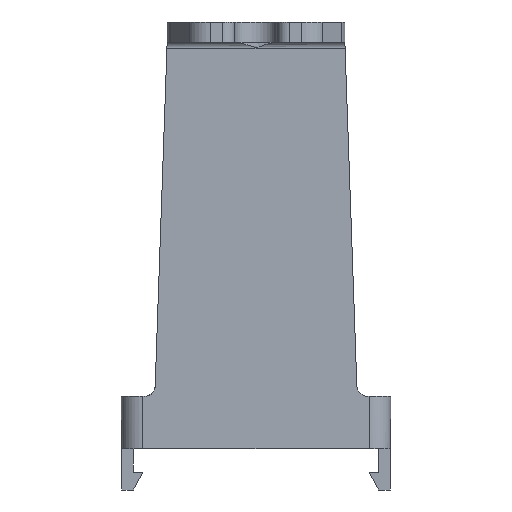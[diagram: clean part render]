
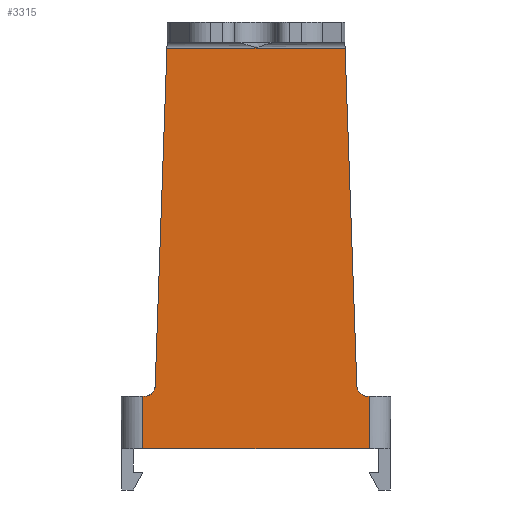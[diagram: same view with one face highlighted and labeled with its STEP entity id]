
A CAD part, front view. The second image highlights one B-rep face of the part: STEP entity #3315.
In plain terms, the highlighted planar face has unit normal (0, -1, -0.006).
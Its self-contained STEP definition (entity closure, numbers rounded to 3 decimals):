
#49=ELLIPSE('',#3580,0.9,0.9);
#50=ELLIPSE('',#3582,0.9,0.9);
#552=ORIENTED_EDGE('',*,*,#1411,.T.);
#553=ORIENTED_EDGE('',*,*,#1425,.T.);
#554=ORIENTED_EDGE('',*,*,#1491,.T.);
#555=ORIENTED_EDGE('',*,*,#1489,.T.);
#556=ORIENTED_EDGE('',*,*,#1492,.T.);
#557=ORIENTED_EDGE('',*,*,#1324,.T.);
#558=ORIENTED_EDGE('',*,*,#1493,.T.);
#559=ORIENTED_EDGE('',*,*,#1494,.F.);
#560=ORIENTED_EDGE('',*,*,#1495,.F.);
#561=ORIENTED_EDGE('',*,*,#1405,.F.);
#1324=EDGE_CURVE('',#1820,#1819,#2116,.T.);
#1405=EDGE_CURVE('',#1880,#1881,#2180,.F.);
#1411=EDGE_CURVE('',#1880,#1885,#2184,.T.);
#1425=EDGE_CURVE('',#1885,#1894,#2195,.F.);
#1489=EDGE_CURVE('',#1946,#1945,#49,.F.);
#1491=EDGE_CURVE('',#1894,#1946,#2231,.T.);
#1492=EDGE_CURVE('',#1945,#1820,#2232,.T.);
#1493=EDGE_CURVE('',#1819,#1947,#2233,.T.);
#1494=EDGE_CURVE('',#1948,#1947,#50,.T.);
#1495=EDGE_CURVE('',#1881,#1948,#2234,.F.);
#1819=VERTEX_POINT('',#5049);
#1820=VERTEX_POINT('',#5051);
#1880=VERTEX_POINT('',#5246);
#1881=VERTEX_POINT('',#5248);
#1885=VERTEX_POINT('',#5258);
#1894=VERTEX_POINT('',#5283);
#1945=VERTEX_POINT('',#5481);
#1946=VERTEX_POINT('',#5483);
#1947=VERTEX_POINT('',#5489);
#1948=VERTEX_POINT('',#5491);
#2116=LINE('',#5050,#2522);
#2180=LINE('',#5247,#2586);
#2184=LINE('',#5259,#2590);
#2195=LINE('',#5284,#2601);
#2231=LINE('',#5486,#2637);
#2232=LINE('',#5487,#2638);
#2233=LINE('',#5488,#2639);
#2234=LINE('',#5492,#2640);
#2522=VECTOR('',#3934,1000.);
#2586=VECTOR('',#4068,1000.);
#2590=VECTOR('',#4078,1000.);
#2601=VECTOR('',#4099,1000.);
#2637=VECTOR('',#4217,1000.);
#2638=VECTOR('',#4218,1000.);
#2639=VECTOR('',#4219,1000.);
#2640=VECTOR('',#4222,1000.);
#2843=EDGE_LOOP('',(#552,#553,#554,#555,#556,#557,#558,#559,#560,#561));
#3018=FACE_BOUND('',#2843,.T.);
#3172=PLANE('',#3581);
#3315=ADVANCED_FACE('',(#3018),#3172,.T.);
#3580=AXIS2_PLACEMENT_3D('',#5482,#4212,#4213);
#3581=AXIS2_PLACEMENT_3D('',#5485,#4215,#4216);
#3582=AXIS2_PLACEMENT_3D('',#5490,#4220,#4221);
#3934=DIRECTION('',(-1.,0.,0.));
#4068=DIRECTION('',(0.006,0.006,-1.));
#4078=DIRECTION('',(1.,0.,0.));
#4099=DIRECTION('',(-0.006,0.006,-1.));
#4212=DIRECTION('',(0.,-1.,-0.006));
#4213=DIRECTION('',(0.,-0.006,1.));
#4215=DIRECTION('',(0.,-1.,-0.006));
#4216=DIRECTION('',(0.,0.006,-1.));
#4217=DIRECTION('',(-1.,0.,0.));
#4218=DIRECTION('',(-0.035,-0.006,0.999));
#4219=DIRECTION('',(-0.035,0.006,-0.999));
#4220=DIRECTION('',(0.,-1.,-0.006));
#4221=DIRECTION('',(0.,0.006,-1.));
#4222=DIRECTION('',(-1.,0.,0.));
#5049=CARTESIAN_POINT('',(-7.517,-15.047,33.803));
#5050=CARTESIAN_POINT('',(-11.35,-15.047,33.803));
#5051=CARTESIAN_POINT('',(7.517,-15.047,33.803));
#5246=CARTESIAN_POINT('',(-9.55,-14.85,0.));
#5247=CARTESIAN_POINT('',(-9.55,-14.85,-0.01));
#5248=CARTESIAN_POINT('',(-9.576,-14.876,4.4));
#5258=CARTESIAN_POINT('',(9.55,-14.85,0.));
#5259=CARTESIAN_POINT('',(-9.55,-14.85,0.));
#5283=CARTESIAN_POINT('',(9.576,-14.876,4.4));
#5284=CARTESIAN_POINT('',(9.755,-15.055,35.299));
#5481=CARTESIAN_POINT('',(8.514,-14.881,5.269));
#5482=CARTESIAN_POINT('',(9.413,-14.881,5.3));
#5483=CARTESIAN_POINT('',(9.413,-14.876,4.4));
#5485=CARTESIAN_POINT('',(-11.35,-15.055,35.299));
#5486=CARTESIAN_POINT('',(36.68,-14.876,4.4));
#5487=CARTESIAN_POINT('',(8.544,-14.876,4.417));
#5488=CARTESIAN_POINT('',(-7.47,-15.055,35.164));
#5489=CARTESIAN_POINT('',(-8.514,-14.881,5.269));
#5490=CARTESIAN_POINT('',(-9.413,-14.881,5.3));
#5491=CARTESIAN_POINT('',(-9.413,-14.876,4.4));
#5492=CARTESIAN_POINT('',(36.68,-14.876,4.4));
